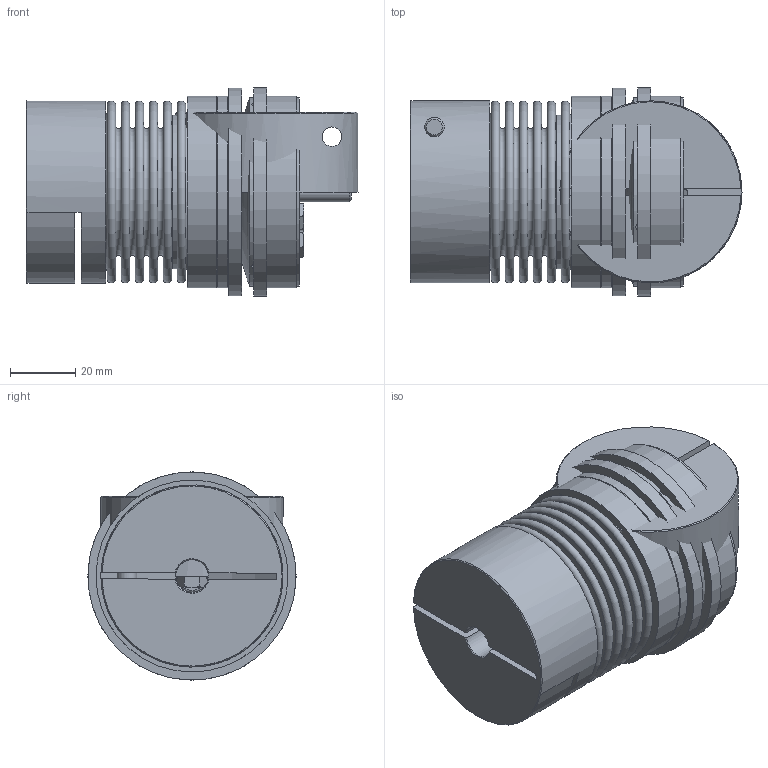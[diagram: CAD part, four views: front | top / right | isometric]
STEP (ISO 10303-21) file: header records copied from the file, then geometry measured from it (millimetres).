
FILE_DESCRIPTION( ( 'Unknown' ), '1' );
FILE_NAME( 'C:/Dokumente und Einstellungen/SKarpstein/Desktop/Korrigierte 3D Modelle/KBK-BKI-30-86-5.stp', 'Unknown', ( 'Unknown' ), ( 'Unknown' ), 'XStep 1.0', 'Unknown', ' ' );
FILE_SCHEMA( ( 'automotive_design' ) );
Length unit declared in the file: millimetre
Products named in the file (10): Assem1; Stellring 30; Druckring 30; KBK L-I-30 Grundkörper; Konusbuchse KBK L-I-30; din_en_24017_m5x16; Flansch BK30; BL30_Standard_0; KN30_Standard_2; Socket Head Cap Screw_DIN_DIN 912 M6 x 20 --- 20N_3
Bounding box: 102.05 x 64 x 64 mm (x, y, z)
Volume: 255030.4 mm3; surface area: 170064 mm2
Topology: 23 solids, 23 shells, 536 faces, 1110 edges, 711 vertices
Faces by surface type: plane 257, cylinder 114, cone 104, torus 61
Full cylindrical faces by diameter (mm): 3.242 x6, 4.134 x18, 5 x7, 5.5 x12, 6 x4, 6.4 x2, 6.88 x7, 10 x4, 11 x2, 12 x4, 23.9 x2, 24.4 x2, 25 x4, 34 x2, 37 x2, 38 x4, 39.5 x2, 40 x2, 46.5 x4, 47.3 x4, 52 x2, 56 x2, 58 x2, 59 x4, 64 x2
Entity records: 5802 total; most frequent: CARTESIAN_POINT 1364, DIRECTION 949, ORIENTED_EDGE 646, AXIS2_PLACEMENT_3D 435, EDGE_LOOP 384, EDGE_CURVE 323, FACE_OUTER_BOUND 287, VERTEX_POINT 262
